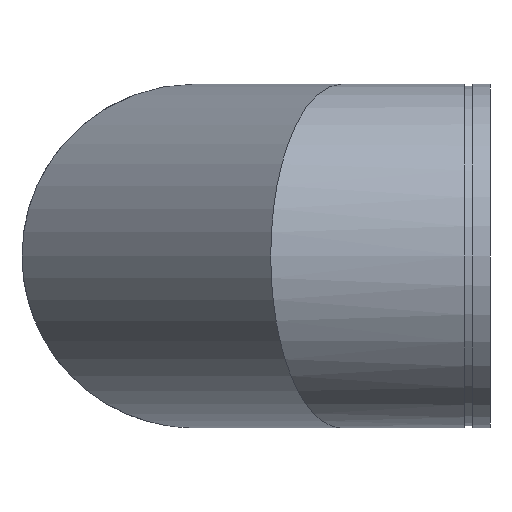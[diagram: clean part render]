
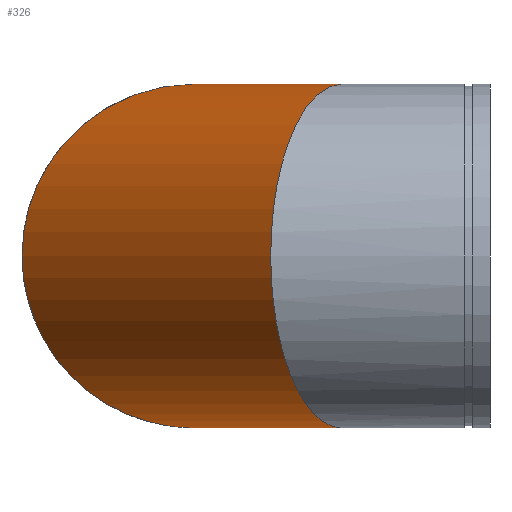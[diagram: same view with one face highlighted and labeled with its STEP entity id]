
A CAD part, left-side view. The second image highlights one B-rep face of the part: STEP entity #326.
In plain terms, the highlighted cylindrical face has radius 254 mm (diameter 508 mm), a full revolution.
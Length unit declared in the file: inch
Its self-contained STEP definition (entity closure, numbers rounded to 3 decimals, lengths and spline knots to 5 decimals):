
#51=ELLIPSE('',#383,10.82392,10.);
#52=ELLIPSE('',#384,10.82392,10.);
#53=ELLIPSE('',#385,10.82392,10.);
#54=ELLIPSE('',#388,10.82392,10.);
#55=ELLIPSE('',#389,10.82392,10.);
#56=ELLIPSE('',#390,10.82392,10.);
#82=FACE_OUTER_BOUND('',#103,.T.);
#103=EDGE_LOOP('',(#269,#270,#271,#272,#273,#274,#275,#276));
#115=LINE('',#606,#125);
#125=VECTOR('',#494,10.);
#165=VERTEX_POINT('',#596);
#166=VERTEX_POINT('',#598);
#167=VERTEX_POINT('',#600);
#168=VERTEX_POINT('',#605);
#169=VERTEX_POINT('',#607);
#170=VERTEX_POINT('',#609);
#201=EDGE_CURVE('',#165,#166,#51,.T.);
#202=EDGE_CURVE('',#167,#166,#52,.T.);
#203=EDGE_CURVE('',#167,#165,#53,.T.);
#204=EDGE_CURVE('',#165,#168,#115,.T.);
#205=EDGE_CURVE('',#168,#169,#54,.T.);
#206=EDGE_CURVE('',#170,#169,#55,.T.);
#207=EDGE_CURVE('',#170,#168,#56,.T.);
#269=ORIENTED_EDGE('',*,*,#203,.F.);
#270=ORIENTED_EDGE('',*,*,#202,.T.);
#271=ORIENTED_EDGE('',*,*,#201,.F.);
#272=ORIENTED_EDGE('',*,*,#204,.T.);
#273=ORIENTED_EDGE('',*,*,#205,.T.);
#274=ORIENTED_EDGE('',*,*,#206,.F.);
#275=ORIENTED_EDGE('',*,*,#207,.T.);
#276=ORIENTED_EDGE('',*,*,#204,.F.);
#293=CYLINDRICAL_SURFACE('',#387,10.);
#326=ADVANCED_FACE('',(#82),#293,.T.);
#383=AXIS2_PLACEMENT_3D('',#599,#484,#485);
#384=AXIS2_PLACEMENT_3D('',#601,#486,#487);
#385=AXIS2_PLACEMENT_3D('',#602,#488,#489);
#387=AXIS2_PLACEMENT_3D('',#604,#492,#493);
#388=AXIS2_PLACEMENT_3D('',#608,#495,#496);
#389=AXIS2_PLACEMENT_3D('',#610,#497,#498);
#390=AXIS2_PLACEMENT_3D('',#611,#499,#500);
#484=DIRECTION('center_axis',(-0.383,-0.924,0.));
#485=DIRECTION('ref_axis',(0.924,-0.383,0.));
#486=DIRECTION('center_axis',(0.383,0.924,0.));
#487=DIRECTION('ref_axis',(0.924,-0.383,0.));
#488=DIRECTION('center_axis',(-0.383,-0.924,0.));
#489=DIRECTION('ref_axis',(0.924,-0.383,0.));
#492=DIRECTION('center_axis',(-0.707,-0.707,0.));
#493=DIRECTION('ref_axis',(0.707,-0.707,0.));
#494=DIRECTION('',(0.707,0.707,0.));
#495=DIRECTION('center_axis',(-0.924,-0.383,0.));
#496=DIRECTION('ref_axis',(0.383,-0.924,0.));
#497=DIRECTION('center_axis',(0.924,0.383,0.));
#498=DIRECTION('ref_axis',(0.383,-0.924,0.));
#499=DIRECTION('center_axis',(-0.924,-0.383,0.));
#500=DIRECTION('ref_axis',(0.383,-0.924,0.));
#596=CARTESIAN_POINT('',(-10.,-4.48286,0.));
#598=CARTESIAN_POINT('',(0.,-8.625,-10.));
#599=CARTESIAN_POINT('Origin',(0.,-8.625,0.));
#600=CARTESIAN_POINT('',(0.,-8.625,10.));
#601=CARTESIAN_POINT('Origin',(0.,-8.625,0.));
#602=CARTESIAN_POINT('Origin',(0.,-8.625,0.));
#604=CARTESIAN_POINT('Origin',(8.625,0.,0.));
#605=CARTESIAN_POINT('',(4.48286,10.,0.));
#606=CARTESIAN_POINT('',(1.55393,7.07107,0.));
#607=CARTESIAN_POINT('',(8.625,0.,-10.));
#608=CARTESIAN_POINT('Origin',(8.625,0.,0.));
#609=CARTESIAN_POINT('',(8.625,0.,10.));
#610=CARTESIAN_POINT('Origin',(8.625,0.,0.));
#611=CARTESIAN_POINT('Origin',(8.625,0.,0.));
